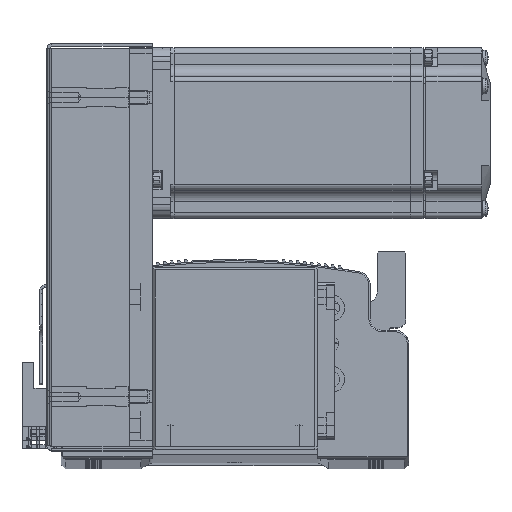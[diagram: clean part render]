
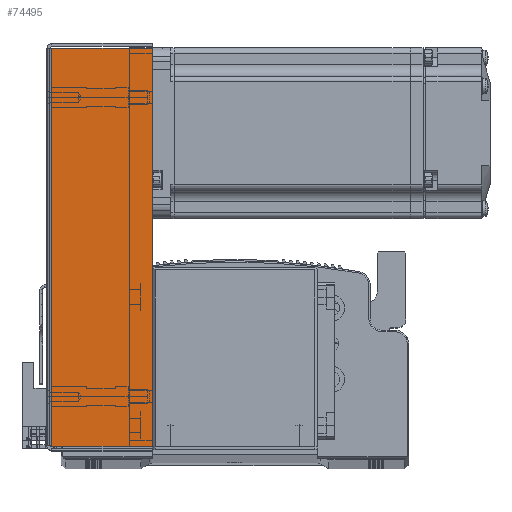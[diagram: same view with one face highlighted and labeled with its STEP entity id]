
A CAD part, top view. The second image highlights one B-rep face of the part: STEP entity #74495.
In plain terms, the highlighted planar face has unit normal (0, 0, 1) as drawn and (0, 0, -1) by its records, which use the part's own axes.
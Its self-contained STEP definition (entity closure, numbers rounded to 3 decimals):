
#5839 = CARTESIAN_POINT ( 'NONE',  ( 69.793, 0., -33.5 ) ) ;
#5846 = DIRECTION ( 'NONE',  ( 0., 1., 0. ) ) ;
#5917 = DIRECTION ( 'NONE',  ( 0., 1., 0. ) ) ;
#5958 = CARTESIAN_POINT ( 'NONE',  ( -69.793, 0., -33.5 ) ) ;
#5970 = DIRECTION ( 'NONE',  ( 1., 0., 0. ) ) ;
#5983 = CARTESIAN_POINT ( 'NONE',  ( 71.5, 0.737, -33.5 ) ) ;
#6038 = DIRECTION ( 'NONE',  ( 1., 0., 0. ) ) ;
#6098 = CARTESIAN_POINT ( 'NONE',  ( 0., 36., -33.5 ) ) ;
#7572 = EDGE_CURVE ( 'NONE', #66330, #66415, #80185, .T. ) ;
#7587 = EDGE_CURVE ( 'NONE', #66354, #66330, #80186, .T. ) ;
#7595 = EDGE_CURVE ( 'NONE', #66354, #66402, #80172, .T. ) ;
#7606 = EDGE_CURVE ( 'NONE', #66402, #66415, #79221, .T. ) ;
#26144 = AXIS2_PLACEMENT_3D ( 'NONE', #29576, #29567, #29571 ) ;
#29564 = PLANE ( 'NONE',  #26144 ) ;
#29567 = DIRECTION ( 'NONE',  ( 0., 0., 1. ) ) ;
#29571 = DIRECTION ( 'NONE',  ( 0., -1., 0. ) ) ;
#29576 = CARTESIAN_POINT ( 'NONE',  ( 0., 0., -33.5 ) ) ;
#54553 = ORIENTED_EDGE ( 'NONE', *, *, #7572, .F. ) ;
#54615 = ORIENTED_EDGE ( 'NONE', *, *, #7606, .T. ) ;
#54673 = ORIENTED_EDGE ( 'NONE', *, *, #7587, .F. ) ;
#54693 = ORIENTED_EDGE ( 'NONE', *, *, #7595, .T. ) ;
#56193 = CARTESIAN_POINT ( 'NONE',  ( 69.793, 0.737, -33.5 ) ) ;
#56239 = CARTESIAN_POINT ( 'NONE',  ( -69.793, 0.737, -33.5 ) ) ;
#56341 = CARTESIAN_POINT ( 'NONE',  ( 69.793, 36., -33.5 ) ) ;
#56344 = CARTESIAN_POINT ( 'NONE',  ( -69.793, 36., -33.5 ) ) ;
#66330 = VERTEX_POINT ( 'NONE', #56193 ) ;
#66354 = VERTEX_POINT ( 'NONE', #56239 ) ;
#66402 = VERTEX_POINT ( 'NONE', #56344 ) ;
#66415 = VERTEX_POINT ( 'NONE', #56341 ) ;
#74495 = ADVANCED_FACE ( 'NONE', ( #81276 ), #29564, .F. ) ;
#79221 = LINE ( 'NONE', #6098, #79288 ) ;
#79288 = VECTOR ( 'NONE', #6038, 1000. ) ;
#80172 = LINE ( 'NONE', #5958, #80182 ) ;
#80180 = VECTOR ( 'NONE', #5970, 1000. ) ;
#80182 = VECTOR ( 'NONE', #5917, 1000. ) ;
#80185 = LINE ( 'NONE', #5839, #80204 ) ;
#80186 = LINE ( 'NONE', #5983, #80180 ) ;
#80204 = VECTOR ( 'NONE', #5846, 1000. ) ;
#81276 = FACE_OUTER_BOUND ( 'NONE', #84563, .T. ) ;
#84563 = EDGE_LOOP ( 'NONE', ( #54673, #54693, #54615, #54553 ) ) ;
